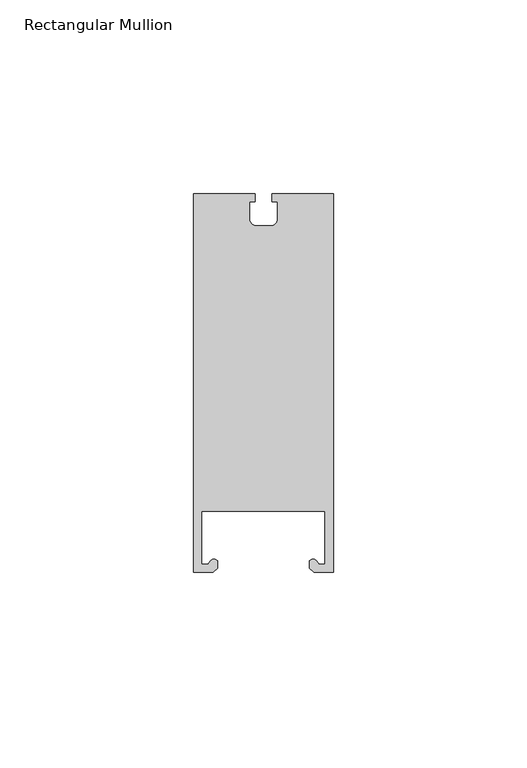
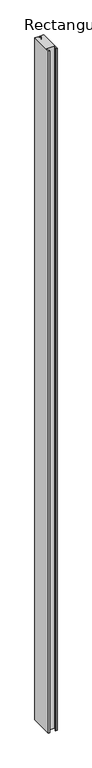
"""IFC4 building model written with IfcOpenShell, lengths in millimetres: member geometry, Rectangular Mullion : NLRS_21_CWM_drager LD.0995 - links_Storax."""

from ifc_helpers import new_model, si_unit, point, frame, frame_2d, origin, place, context, project, spatial, polyline, circle_curve, trimmed, segment, composite_curve, outline, extrude, source, transform, mapped, element, save


def rectangular_mullion_bd250e2e(model_context):
    return source(origin(), model_context, "Body", "SweptSolid", [
        extrude(outline(composite_curve([segment(polyline([(-50.0, -98.5), (-55.0, -98.5), (-56.1000941, -97.5769114), (-56.1000941, -95.561549)]), True, "CONTINUOUS"), segment(trimmed(circle_curve(frame_2d((-55.2049928, -96.3498072)), 1.1927101), [point((-56.1000941, -95.561549))], [point((-54.3098916, -95.561549))], False, "CARTESIAN"), True, "CONTINUOUS"), segment(polyline([(-54.3098916, -95.561549), (-53.6747557, -96.4686169), (-52.1363551, -96.4686169), (-52.1363551, -82.8621189), (-84.0, -82.8621189), (-84.0, -96.4686169), (-82.3252443, -96.4686169), (-81.6901084, -95.561549)]), True, "CONTINUOUS"), segment(trimmed(circle_curve(frame_2d((-80.7950072, -96.3498072)), 1.1927101), [point((-81.6901084, -95.561549))], [point((-79.8999059, -95.561549))], False, "CARTESIAN"), True, "CONTINUOUS"), segment(polyline([(-79.8999059, -95.561549), (-79.8999059, -97.5769114), (-81.0, -98.5), (-86.0, -98.5), (-86.0, -1.0), (-70.2489445, -1.0), (-70.2489445, -3.0843142), (-71.59041, -3.0843142), (-71.59041, -7.4667227)]), True, "CONTINUOUS"), segment(trimmed(circle_curve(frame_2d((-69.8285608, -7.4667227)), 1.7618492), [point((-71.59041, -7.4667227))], [point((-70.0972447, -9.2079641))], True, "CARTESIAN"), True, "CONTINUOUS"), segment(polyline([(-70.0972447, -9.2079641), (-66.440123, -9.2079641)]), True, "CONTINUOUS"), segment(trimmed(circle_curve(frame_2d((-66.1714392, -7.4667227)), 1.7618492), [point((-66.440123, -9.2079641))], [point((-64.40959, -7.4667227))], True, "CARTESIAN"), True, "CONTINUOUS"), segment(polyline([(-64.40959, -7.4667227), (-64.40959, -3.0843142), (-65.7510555, -3.0843142), (-65.7510555, -1.0), (-50.0, -1.0), (-50.0, -98.5)]), True, "CONTINUOUS")], self_intersect=False)), frame((0.0, 0.0, -3000.0), z_axis=(0.0, 0.0, 1.0), x_axis=(1.0, 0.0, 0.0)), (0.0, 0.0, 1.0), 3000.0),
    ])


if __name__ == "__main__":
    model = new_model("IFC4")
    model_context = context("Model", 3, world=origin())
    ifc_project = project(units=[si_unit("LENGTHUNIT", "METRE", prefix="MILLI")], contexts=[model_context])
    site = spatial("IfcSite", under=ifc_project)
    building = spatial("IfcBuilding", under=site)
    placement = place(None, origin())
    rectangular_mullion_shape = rectangular_mullion_bd250e2e(model_context)
    element("IfcMember", 1, ObjectType="Rectangular Mullion : NLRS_21_CWM_drager LD.0995 - links_Storax", at=placement, inside=building, context=model_context, shape_type="MappedRepresentation", body=[
        mapped(rectangular_mullion_shape, transform((0.0, 0.0, 0.0), x_axis=(1.0, 0.0, 0.0), y_axis=(0.0, 1.0, 0.0), z_axis=(0.0, 0.0, 1.0))),
    ])
    save(model, "model.ifc")
